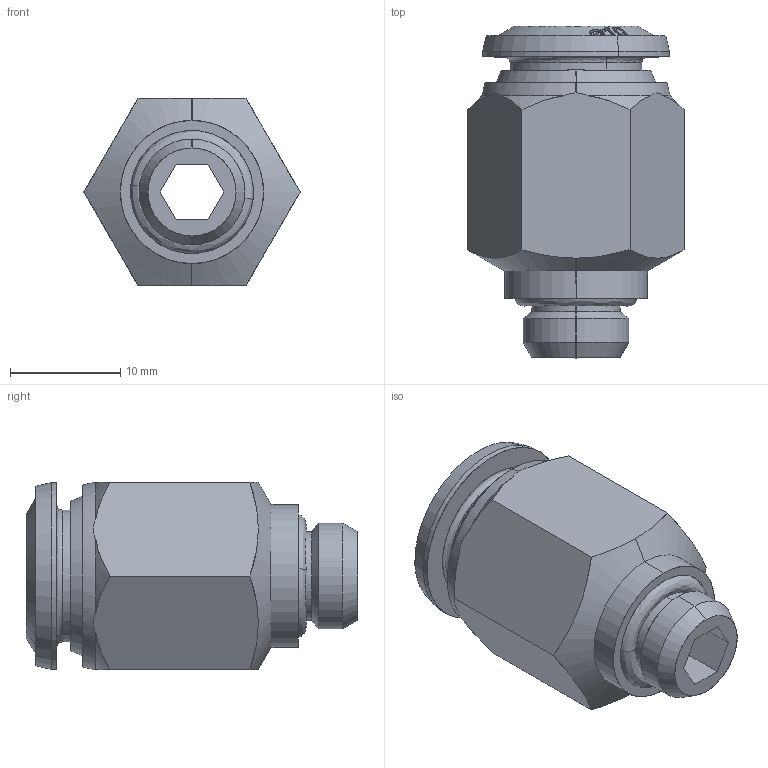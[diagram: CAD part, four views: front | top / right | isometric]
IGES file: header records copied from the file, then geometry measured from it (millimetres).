
Start section: SolidWorks IGES file using analytic representation for surfaces
Global section: file name: \\192.168.0.114\Utecnico\Disegni\Disegni Esecutivi\SERIE 50000\ASSIEMI_50000\50020\ASSIEMI_.IGES_50020\5002000030A.IGS; native system: SolidWorks 2020; preprocessor: SolidWorks 2020; author: cad06; date: 220311.081945; units: millimetre
Bounding box: 19.63 x 30.15 x 17 mm (x, y, z)
Surface area: 2849.2 mm2 (no closed solid volume)
Topology: 0 solids, 0 shells, 104 faces, 1228 edges, 1228 vertices
Faces by surface type: bspline 63, revolution 41
